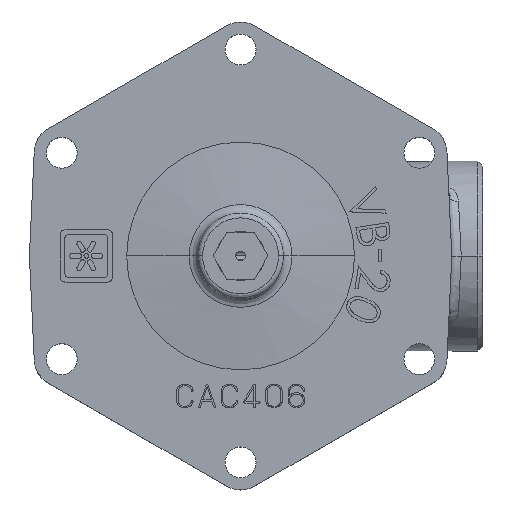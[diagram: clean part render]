
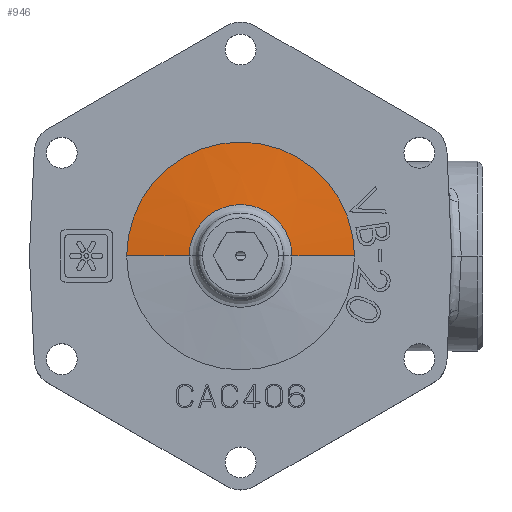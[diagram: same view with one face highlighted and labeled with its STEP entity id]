
A CAD part, top view. The second image highlights one B-rep face of the part: STEP entity #946.
In plain terms, the highlighted free-form (B-spline) face has degree [2, 1] with [5, 2] control points.
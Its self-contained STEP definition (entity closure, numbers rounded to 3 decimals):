
#946=ADVANCED_FACE('',(#8689),#8688,.T.);
#8688=( BOUNDED_SURFACE() B_SPLINE_SURFACE( 2,1,((#16905,#16906),(#16907,#16908),(#16909,#16910),(#16911,#16912),(#16913,#16914)), .UNSPECIFIED.,.F.,.F.,.F.) B_SPLINE_SURFACE_WITH_KNOTS((3,2,3),(2,2),(0.,0.5,1.),(0.,1.), .UNSPECIFIED. ) GEOMETRIC_REPRESENTATION_ITEM() RATIONAL_B_SPLINE_SURFACE(((1.,1.),(0.707,0.707),(1.,1.),(0.707,0.707),(1.,1.))) REPRESENTATION_ITEM('') SURFACE() );
#8689=FACE_OUTER_BOUND('',#16915,.T.);
#16905=CARTESIAN_POINT('',(0.,0.,9.1));
#16906=CARTESIAN_POINT('',(-33.941,0.,6.13));
#16907=CARTESIAN_POINT('',(0.,0.,9.1));
#16908=CARTESIAN_POINT('',(-33.941,33.941,6.13));
#16909=CARTESIAN_POINT('',(0.,0.,9.1));
#16910=CARTESIAN_POINT('',(0.,33.941,6.13));
#16911=CARTESIAN_POINT('',(0.,0.,9.1));
#16912=CARTESIAN_POINT('',(33.941,33.941,6.13));
#16913=CARTESIAN_POINT('',(0.,0.,9.1));
#16914=CARTESIAN_POINT('',(33.941,0.,6.13));
#16915=EDGE_LOOP('',(#21582,#21583,#21584,#21585));
#21582=ORIENTED_EDGE('',*,*,#23995,.T.);
#21583=ORIENTED_EDGE('',*,*,#23996,.T.);
#21584=ORIENTED_EDGE('',*,*,#23974,.F.);
#21585=ORIENTED_EDGE('',*,*,#23997,.F.);
#23974=EDGE_CURVE('',#37906,#37907,#37908,.T.);
#23995=EDGE_CURVE('',#38029,#38028,#38048,.T.);
#23996=EDGE_CURVE('',#38028,#37907,#38054,.T.);
#23997=EDGE_CURVE('',#38029,#37906,#38060,.T.);
#37906=VERTEX_POINT('',#48526);
#37907=VERTEX_POINT('',#48527);
#37908=CIRCLE('',#48531,24.);
#38028=VERTEX_POINT('',#48608);
#38029=VERTEX_POINT('',#48609);
#38048=CIRCLE('',#48623,10.826);
#38054=(BOUNDED_CURVE() B_SPLINE_CURVE(1,(#48624,#48625),.UNSPECIFIED.,.F.,.F.) B_SPLINE_CURVE_WITH_KNOTS((2,2),(0.319,0.707),.UNSPECIFIED.) CURVE() GEOMETRIC_REPRESENTATION_ITEM() RATIONAL_B_SPLINE_CURVE((1.,1.)) REPRESENTATION_ITEM('') );
#38060=(BOUNDED_CURVE() B_SPLINE_CURVE(1,(#48626,#48627),.UNSPECIFIED.,.F.,.F.) B_SPLINE_CURVE_WITH_KNOTS((2,2),(0.319,0.707),.UNSPECIFIED.) CURVE() GEOMETRIC_REPRESENTATION_ITEM() RATIONAL_B_SPLINE_CURVE((0.75,0.75)) REPRESENTATION_ITEM('') );
#48526=CARTESIAN_POINT('',(-24.,0.,7.));
#48527=CARTESIAN_POINT('',(24.,0.,7.));
#48528=CARTESIAN_POINT('',(0.,0.,7.));
#48529=DIRECTION('',(0.,0.,-1.));
#48530=DIRECTION('',(-1.,0.,0.));
#48531=AXIS2_PLACEMENT_3D('',#48528,#48529,#48530);
#48608=CARTESIAN_POINT('',(10.826,0.,8.153));
#48609=CARTESIAN_POINT('',(-10.826,0.,8.153));
#48620=CARTESIAN_POINT('',(0.,0.,8.153));
#48621=DIRECTION('',(0.,0.,-1.));
#48622=DIRECTION('',(-1.,0.,0.));
#48623=AXIS2_PLACEMENT_3D('',#48620,#48621,#48622);
#48624=CARTESIAN_POINT('',(10.826,0.,8.153));
#48625=CARTESIAN_POINT('',(24.,0.,7.));
#48626=CARTESIAN_POINT('',(-10.826,0.,8.153));
#48627=CARTESIAN_POINT('',(-24.,0.,7.));
